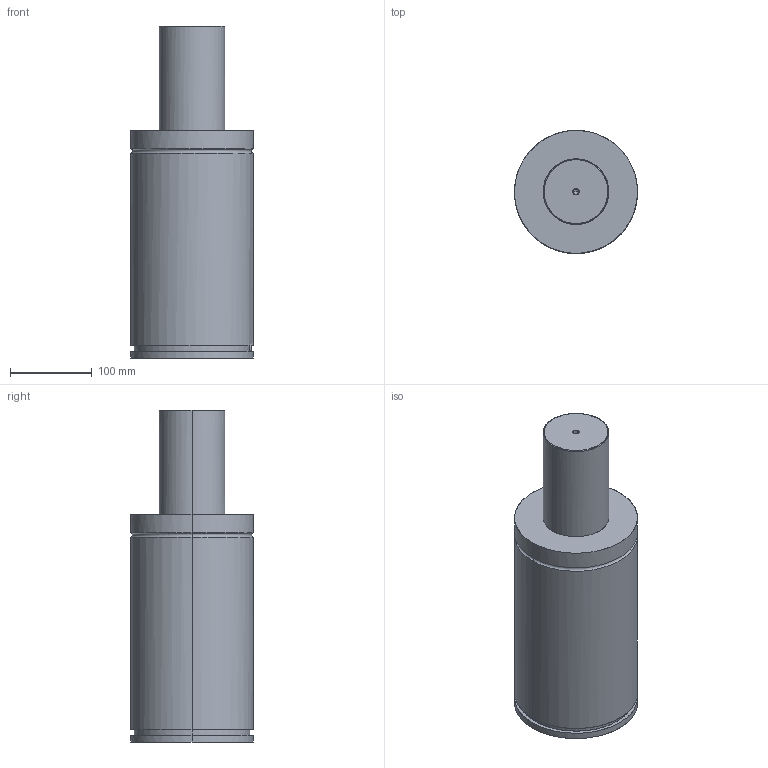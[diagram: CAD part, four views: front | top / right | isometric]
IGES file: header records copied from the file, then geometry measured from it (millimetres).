
Global section: file name: E:\UnigraphicsGraphicData\MISUMI_PRESS-PARTS\IGES\3d_gse150-125_03875_r00.igs; native system: NX V5.0; preprocessor: UGS NX IGES V5.0; author: MISUMI; date: 20110105.160753; units: millimetre
Bounding box: 150 x 150 x 405 mm (x, y, z)
Surface area: 206399.6 mm2 (no closed solid volume)
Topology: 0 solids, 0 shells, 75 faces, 604 edges, 602 vertices
Faces by surface type: bspline 75
